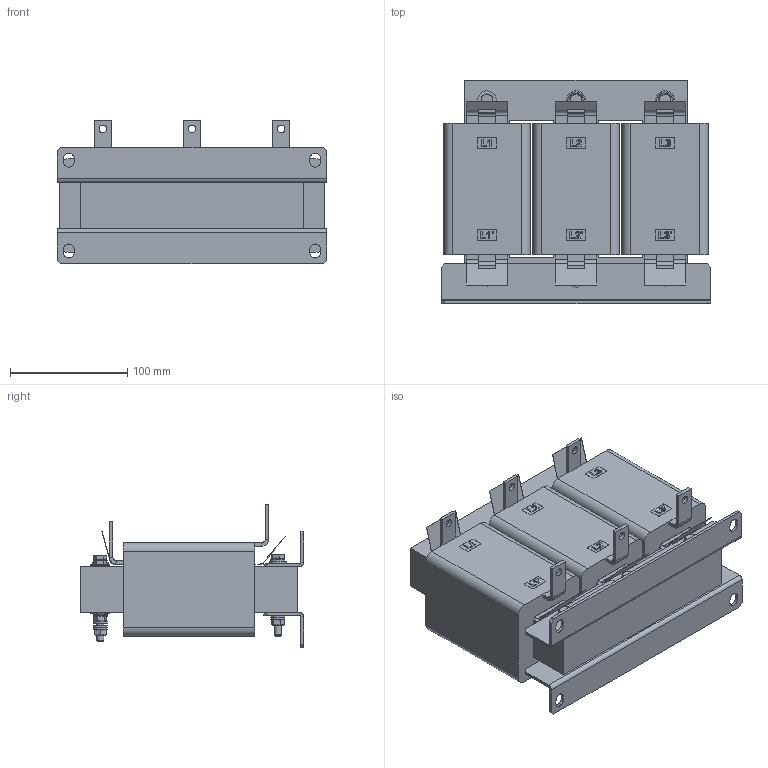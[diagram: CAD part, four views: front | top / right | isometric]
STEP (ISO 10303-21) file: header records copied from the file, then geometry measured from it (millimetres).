
FILE_DESCRIPTION(/* description */ ('raw material description'),/* implementation_level */ '2;1');
FILE_NAME(/* name */ 'P:\Construction\Filter_Marketing\RWK\RWK3044_RWK3062\RWK3044\RWK3044-72-99-E0XXX.stp',/* time_stamp */ '2018-08-27T10:20:58+02:00',/* author */ ('Erika.Jenzer'),/* organization */ ('Schaffner EMV AG'),/* preprocessor_version */ 'ST-DEVELOPER v16.5',/* originating_system */ 'Autodesk Inventor 2017',/* authorisation */ '');
FILE_SCHEMA (('AUTOMOTIVE_DESIGN { 1 0 10303 214 3 1 1 }'));
Length unit declared in the file: millimetre
Products named in the file (1): RWK3044-72-99-E0XXX
Bounding box: 230 x 190.6 x 122.7 mm (x, y, z)
Volume: 2598883.1 mm3; surface area: 250241.5 mm2
Topology: 1 solids, 13 shells, 1033 faces, 2577 edges, 1695 vertices
Faces by surface type: plane 733, cylinder 172, cone 71, bspline 50, torus 7
Full cylindrical faces by diameter (mm): 6 x19, 6.1 x6, 6.4 x14, 6.6 x6, 7.6 x5, 8.4 x3, 8.5 x4, 8.7 x6, 12 x12, 13 x1, 14 x5, 16 x4
Entity records: 30903 total; most frequent: CARTESIAN_POINT 6494, ORIENTED_EDGE 4858, DIRECTION 4436, EDGE_CURVE 2422, VERTEX_POINT 1662, LINE 1544, VECTOR 1544, AXIS2_PLACEMENT_3D 1446
